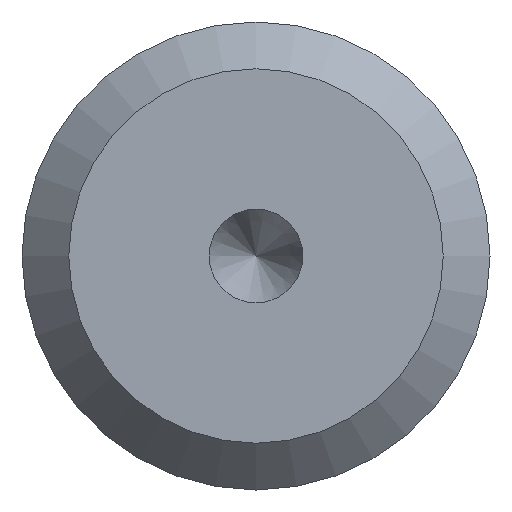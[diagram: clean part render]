
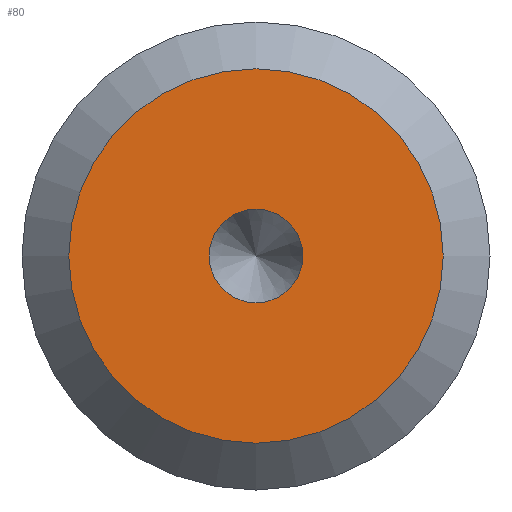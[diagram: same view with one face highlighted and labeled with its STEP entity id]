
A CAD part, front view. The second image highlights one B-rep face of the part: STEP entity #80.
In plain terms, the highlighted planar face has unit normal (0, -1, 0).
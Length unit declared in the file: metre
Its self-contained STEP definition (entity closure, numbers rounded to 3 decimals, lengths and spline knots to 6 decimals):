
#13=PLANE('',#101);
#16=ORIENTED_EDGE('',*,*,#27,.T.);
#17=ORIENTED_EDGE('',*,*,#28,.F.);
#27=EDGE_CURVE('',#52,#52,#33,.T.);
#28=EDGE_CURVE('',#53,#53,#34,.T.);
#33=CIRCLE('',#100,0.0005);
#34=CIRCLE('',#102,0.002);
#40=EDGE_LOOP('',(#16));
#41=EDGE_LOOP('',(#17));
#52=VERTEX_POINT('',#144);
#53=VERTEX_POINT('',#147);
#63=FACE_BOUND('',#40,.T.);
#64=FACE_BOUND('',#41,.T.);
#80=ADVANCED_FACE('',(#63,#64),#13,.F.);
#100=AXIS2_PLACEMENT_3D('',#143,#116,#117);
#101=AXIS2_PLACEMENT_3D('',#145,#118,#119);
#102=AXIS2_PLACEMENT_3D('',#146,#120,#121);
#116=DIRECTION('',(0.,1.,0.));
#117=DIRECTION('',(1.,0.,0.));
#118=DIRECTION('',(0.,1.,0.));
#119=DIRECTION('',(1.,0.,0.));
#120=DIRECTION('',(0.,1.,0.));
#121=DIRECTION('',(1.,0.,0.));
#143=CARTESIAN_POINT('',(0.,-0.0395,0.));
#144=CARTESIAN_POINT('',(0.0005,-0.0395,0.));
#145=CARTESIAN_POINT('',(0.,-0.0395,0.));
#146=CARTESIAN_POINT('',(0.,-0.0395,0.));
#147=CARTESIAN_POINT('',(0.002,-0.0395,0.));
